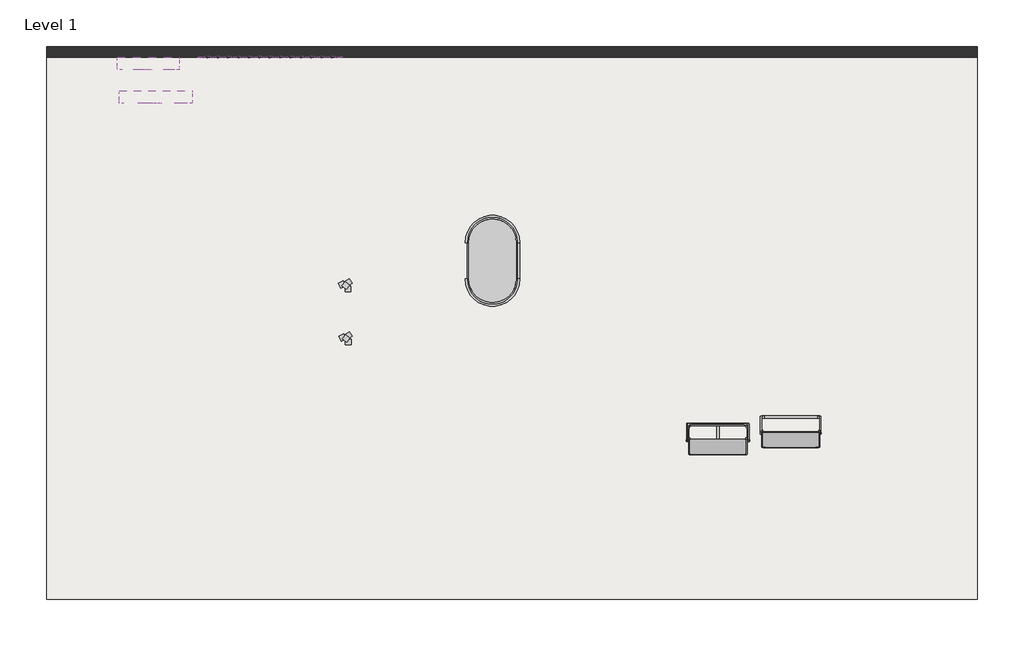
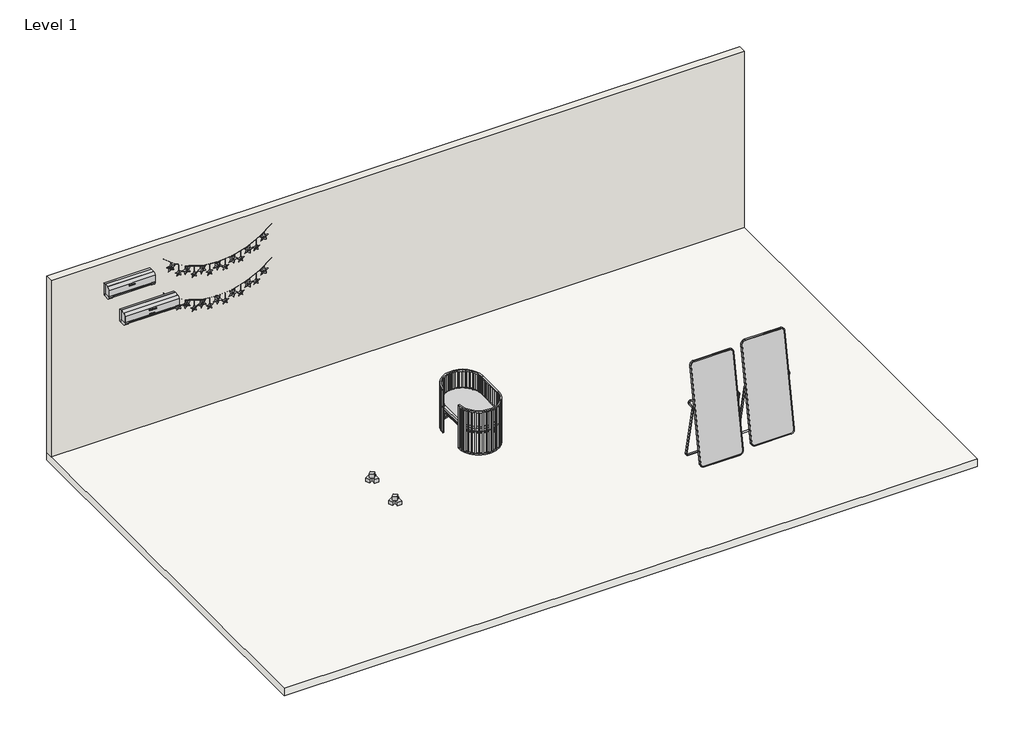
# One storey, incomplete: 7 furniture elements, 2 proxies, 1 slab, 1 wall.
"""IFC4 building model written with IfcOpenShell, lengths in millimetres."""

from ifc_helpers import new_model, si_unit, frame, origin, origin_with_axes, place, context, project, spatial, polyline, outline, extrude, transform, mapped, element, save
from components import blocks_split_air_conditioner_f02337en_white_d5d559fb, white_0b40f84a, furniture_6a52702a, furniture_1a968277, furniture_ccc41857, furniture_eab1c3ee, furniture_b7f7df5d, furniture_94a8f807, furniture_0ae71e41, furniture_70902589, single_8627b193, unique_410485ed, unique_d5d73067

model = new_model("IFC4")

# Units and contexts
model_context = context("Model", 3, world=origin())
ifc_project = project(units=[si_unit("LENGTHUNIT", "METRE", prefix="MILLI")], contexts=[model_context])

# Site, building, storey
site = spatial("IfcSite", under=ifc_project)
building = spatial("IfcBuilding", under=site)
storey = spatial("IfcBuildingStorey", under=building, Name="Level 1", Elevation=0.0)

# Proxies
placement = place(None, origin())
blocks_split_air_conditioner_f02337en_white_shape = blocks_split_air_conditioner_f02337en_white_d5d559fb(model_context)
element("IfcBuildingElementProxy", 1, Name="Blocks_Split Air Conditioner_F02337EN : White", ObjectType="Blocks_Split Air Conditioner_F02337EN : White", at=placement, inside=storey, context=model_context, shape_type="MappedRepresentation", body=[
    mapped(blocks_split_air_conditioner_f02337en_white_shape, transform((-8133.7186487, 8874.4912033, 822.8529387), x_axis=(1.0, 0.0, 0.0), y_axis=(0.0, 1.0, 0.0), z_axis=(0.0, 0.0, 1.0))),
])
white_shape = white_0b40f84a(model_context)
element("IfcBuildingElementProxy", 2, Name="Кондиционер_world_of_REVIT : White", ObjectType="Кондиционер_world_of_REVIT : White", at=placement, inside=storey, context=model_context, shape_type="MappedRepresentation", body=[
    mapped(white_shape, transform((-8033.7186487, 8410.3086601, 386.115802), x_axis=(1.0, 0.0, 0.0), y_axis=(0.0, 1.0, 0.0), z_axis=(0.0, 0.0, 1.0))),
])

# Furniture
furniture_shape = furniture_6a52702a(model_context)
furniture_2_shape = furniture_1a968277(model_context)
furniture_3_shape = furniture_ccc41857(model_context)
element("IfcFurniture", 3, ObjectType="Гирлянда_звездочки_world_of_REVIT : Гирлянда звездочки_world_of_REVIT", at=placement, inside=storey, context=model_context, shape_type="MappedRepresentation", body=[
    mapped(furniture_shape, transform((-6462.4004895, 8874.4912033, 474.4055624), x_axis=(1.0, 0.0, 0.0), y_axis=(0.0, 1.0, 0.0), z_axis=(0.0, 0.0, 1.0))),
    mapped(furniture_2_shape, transform((-6462.4004895, 8874.4912033, 474.4055624), x_axis=(1.0, 0.0, 0.0), y_axis=(0.0, 1.0, 0.0), z_axis=(0.0, 0.0, 1.0))),
    mapped(furniture_3_shape, transform((-6462.4004895, 8874.4912033, 474.4055624), x_axis=(1.0, 0.0, 0.0), y_axis=(0.0, 1.0, 0.0), z_axis=(0.0, 0.0, 1.0))),
])
furniture_4_shape = furniture_eab1c3ee(model_context)
element("IfcFurniture", 4, ObjectType="Кубики_world_of_REVIT : Кубики_world_of_REVIT", at=placement, inside=storey, context=model_context, shape_type="MappedRepresentation", body=[
    mapped(furniture_4_shape, transform((-5511.6450656, 5685.6907618, 0.0), x_axis=(1.0, 0.0, 0.0), y_axis=(0.0, 1.0, 0.0), z_axis=(0.0, 0.0, 1.0))),
])
furniture_5_shape = furniture_b7f7df5d(model_context)
element("IfcFurniture", 5, ObjectType="Зеркало напольное_world_of_REVIT : Зеркало напольное_world_of_REVIT", at=placement, inside=storey, context=model_context, shape_type="MappedRepresentation", body=[
    mapped(furniture_5_shape, transform((697.5995105, 3774.4912033, 0.0), x_axis=(1.0, 0.0, 0.0), y_axis=(0.0, 1.0, 0.0), z_axis=(0.0, 0.0, 1.0))),
])
furniture_6_shape = furniture_94a8f807(model_context)
furniture_7_shape = furniture_0ae71e41(model_context)
furniture_8_shape = furniture_70902589(model_context)
element("IfcFurniture", 6, ObjectType="Blocks_Star Garland_F00495EN : Amarelo", at=placement, inside=storey, context=model_context, shape_type="MappedRepresentation", body=[
    mapped(furniture_6_shape, transform((-6462.4004895, 8874.4912033, 536.7839565), x_axis=(1.0, 0.0, 0.0), y_axis=(0.0, 1.0, 0.0), z_axis=(0.0, 0.0, 1.0))),
    mapped(furniture_7_shape, transform((-6462.4004895, 8874.4912033, 536.7839565), x_axis=(1.0, 0.0, 0.0), y_axis=(0.0, 1.0, 0.0), z_axis=(0.0, 0.0, 1.0))),
    mapped(furniture_8_shape, transform((-6462.4004895, 8874.4912033, 536.7839565), x_axis=(1.0, 0.0, 0.0), y_axis=(0.0, 1.0, 0.0), z_axis=(0.0, 0.0, 1.0))),
])
single_shape = single_8627b193(model_context)
element("IfcFurniture", 7, ObjectType="Blocks_Kid's Blocks_F00481EN : Single", at=placement, inside=storey, context=model_context, shape_type="MappedRepresentation", body=[
    mapped(single_shape, transform((-5411.6450656, 5009.0078272, 0.0), x_axis=(1.0, 0.0, 0.0), y_axis=(0.0, 1.0, 0.0), z_axis=(0.0, 0.0, 1.0))),
])
unique_shape = unique_410485ed(model_context)
element("IfcFurniture", 8, ObjectType="Blocks_Ikornnes Mirror_F01382EN : Unique", at=placement, inside=storey, context=model_context, shape_type="MappedRepresentation", body=[
    mapped(unique_shape, transform((-302.4004895, 3674.4912033, 0.0), x_axis=(1.0, 0.0, 0.0), y_axis=(0.0, 1.0, 0.0), z_axis=(0.0, 0.0, 1.0))),
])
unique_2_shape = unique_d5d73067(model_context)
element("IfcFurniture", 9, ObjectType="Sleepi Crib and Toddler Bed : Unique", at=placement, inside=storey, context=model_context, shape_type="MappedRepresentation", body=[
    mapped(unique_2_shape, transform((-3402.4004895, 6074.4912033, 0.0), x_axis=(1.0, 0.0, 0.0), y_axis=(0.0, 1.0, 0.0), z_axis=(0.0, 0.0, 1.0))),
])

# Slab
element("IfcSlab", 10, ObjectType="Типовой 150мм", at=placement, inside=storey, context=model_context, shape_type="SweptSolid", body=[
    extrude(outline(polyline([(3266.2813513, 9020.4912033), (3266.2813513, 1420.4912033), (-9533.7186487, 1420.4912033), (-9533.7186487, 9020.4912033), (3266.2813513, 9020.4912033)])), frame((0.0, 0.0, -150.0), z_axis=(0.0, 0.0, 1.0), x_axis=(1.0, 0.0, 0.0)), (0.0, 0.0, 1.0), 150.0),
])

# Wall
element("IfcWall", 11, ObjectType="Наружный - Сэндвич-панель толщиной 150мм - Тип 1", at=placement, inside=storey, context=model_context, shape_type="SweptSolid", body=[
    extrude(outline(polyline([(3266.2813513, 8874.4912033), (-9533.7186487, 8874.4912033), (-9533.7186487, 9020.4912033), (3266.2813513, 9020.4912033), (3266.2813513, 8874.4912033)])), origin_with_axes(), (0.0, 0.0, 1.0), 3447.0009503),
])

save(model, "model.ifc")
